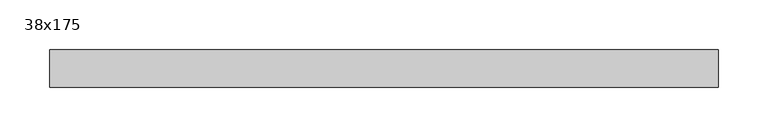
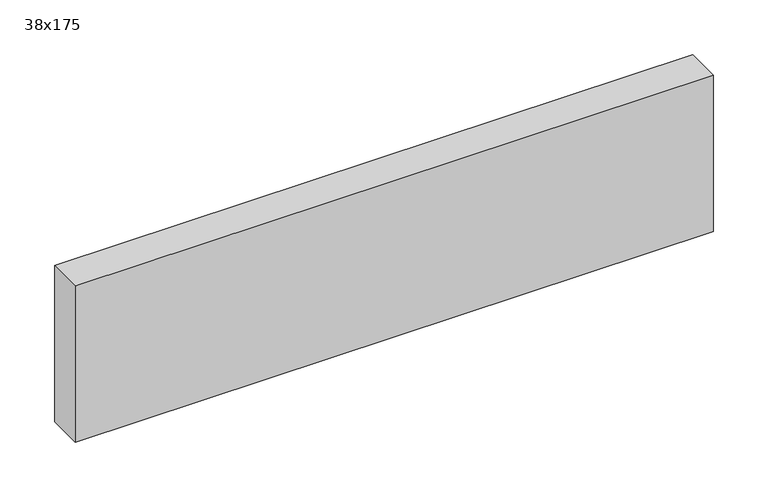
"""IFC4 building model written with IfcOpenShell, lengths in millimetres: beam geometry, Graded Timber : 38x175."""

from ifc_helpers import new_model, si_unit, frame, origin, place, context, project, spatial, polyline, outline, extrude, source, transform, mapped, element, save


def beam_38x175_250ad1c7(model_context):
    return source(origin(), model_context, "Body", "SweptSolid", [
        extrude(outline(polyline([(318.6045284, 19.0), (318.6045284, -19.0), (-356.6053059, -19.0), (-356.6053059, 19.0), (318.6045284, 19.0)])), frame((0.0, 0.0, -87.5), z_axis=(0.0, 0.0, 1.0), x_axis=(1.0, 0.0, 0.0)), (0.0, 0.0, 1.0), 175.0),
    ])


if __name__ == "__main__":
    model = new_model("IFC4")
    model_context = context("Model", 3, world=origin())
    ifc_project = project(units=[si_unit("LENGTHUNIT", "METRE", prefix="MILLI")], contexts=[model_context])
    site = spatial("IfcSite", under=ifc_project)
    building = spatial("IfcBuilding", under=site)
    placement = place(None, origin())
    beam_38x175_shape = beam_38x175_250ad1c7(model_context)
    element("IfcBeam", 1, ObjectType="Graded Timber : 38x175", at=placement, inside=building, context=model_context, shape_type="MappedRepresentation", body=[
        mapped(beam_38x175_shape, transform((0.0, 0.0, 0.0), x_axis=(1.0, 0.0, 0.0), y_axis=(0.0, 1.0, 0.0), z_axis=(0.0, 0.0, 1.0))),
    ])
    save(model, "model.ifc")
